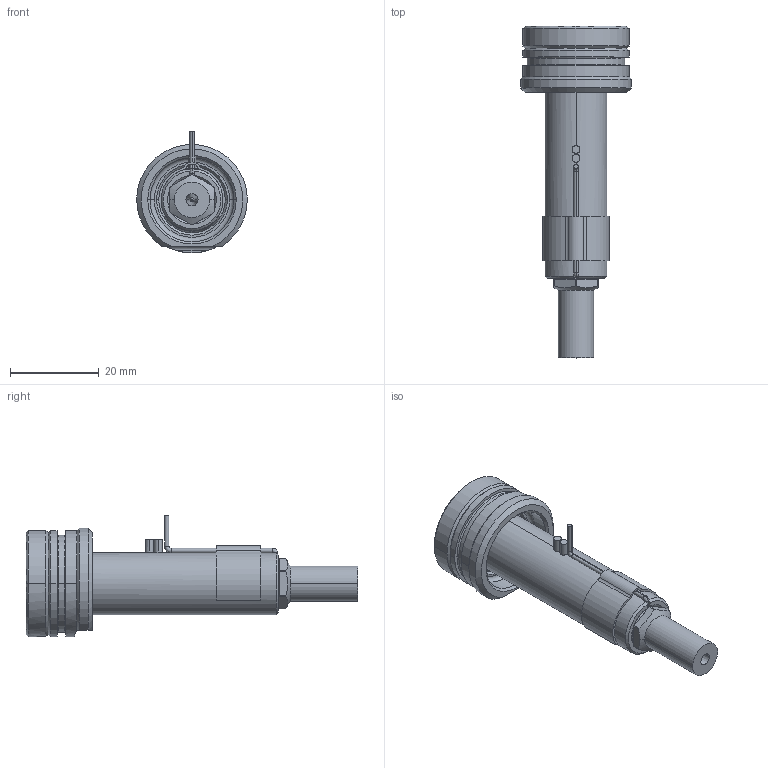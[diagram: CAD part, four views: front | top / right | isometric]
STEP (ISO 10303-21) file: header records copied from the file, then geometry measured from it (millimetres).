
FILE_DESCRIPTION((''),'2;1');
FILE_NAME('EO04_PG-FBE_WR_050_SW','2024-02-19T11:47:07',('sundharh'),(''),'CREO PARAMETRIC BY PTC INC, 2023154','CREO PARAMETRIC BY PTC INC, 2023154','');
FILE_SCHEMA(('CONFIG_CONTROL_DESIGN'));
Length unit declared in the file: millimetre
Products named in the file (1): EO04_PG-FBE_WR_050_SW
Bounding box: 24.99 x 75 x 27.5 mm (x, y, z)
Volume: 12821.2 mm3; surface area: 7211.3 mm2
Topology: 2 solids, 2 shells, 225 faces, 603 edges, 368 vertices
Faces by surface type: cylinder 84, plane 59, cone 46, torus 22, bspline 11, sphere 3
Entity records: 8186 total; most frequent: CARTESIAN_POINT 2512, DIRECTION 1235, ORIENTED_EDGE 1190, EDGE_CURVE 595, AXIS2_PLACEMENT_3D 518, VERTEX_POINT 368, CIRCLE 304, EDGE_LOOP 241
